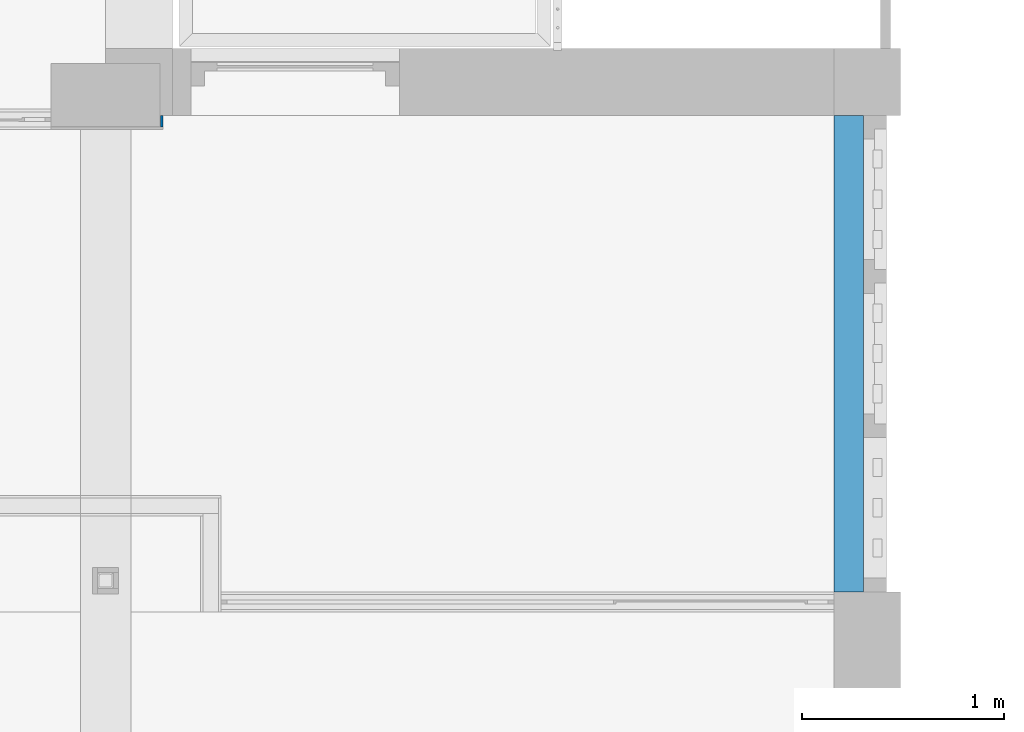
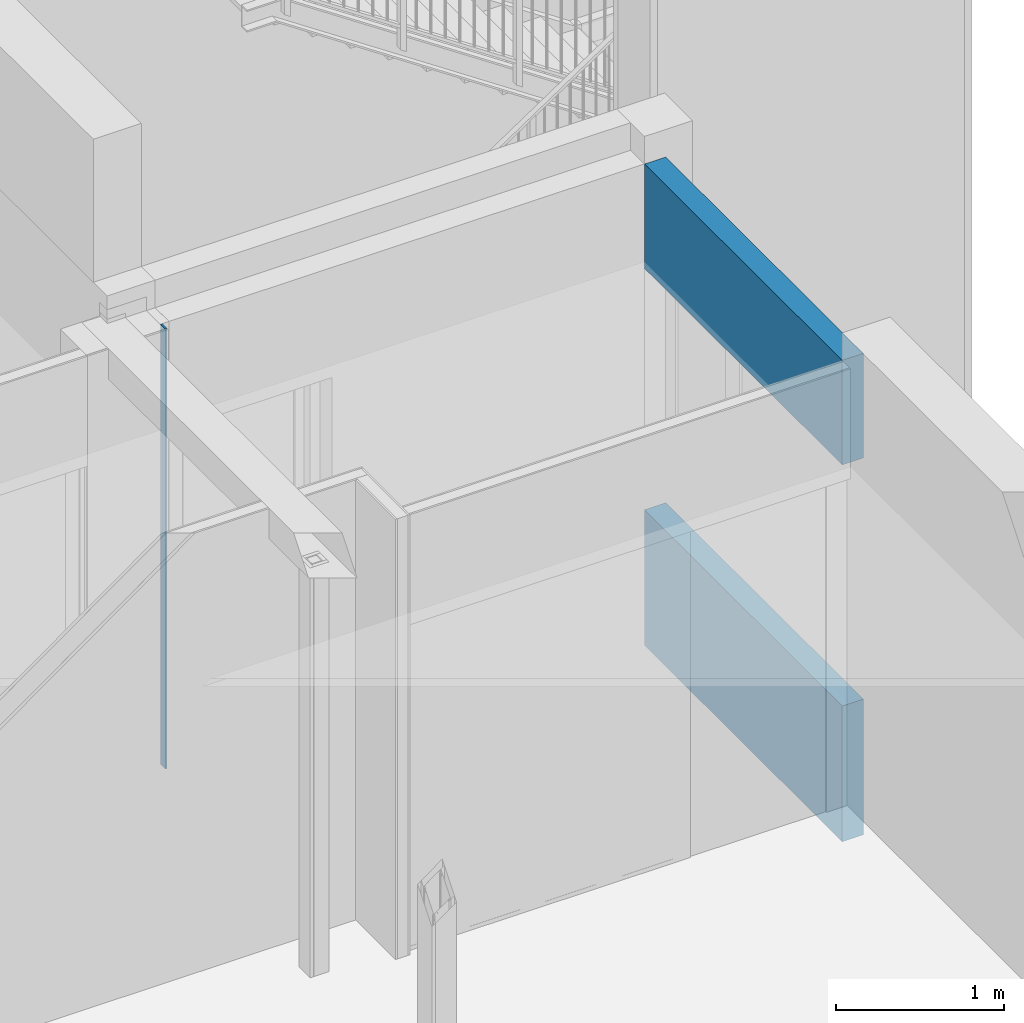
# One storey, part 67 of 117: 3 walls.
"""IFC2X3 building model written with IfcOpenShell, lengths in millimetres."""

from ifc_helpers import new_model, entity, si_unit, converted_unit, derived_unit, money_unit, direction, frame, origin_with_axes, place, context, subcontext, project, spatial, faceted_brep, material, type_object, element, save


model = new_model("IFC2X3")

# Units and contexts
model_context = context("Model", 3, precision=0.01, world=origin_with_axes(), true_north=direction((0.0, 1.0)))
body_context = subcontext(model_context, "Body", "Model", "MODEL_VIEW")
ifc_project = project(units=[si_unit("LENGTHUNIT", "METRE", prefix="MILLI"), si_unit("AREAUNIT", "SQUARE_METRE"), si_unit("VOLUMEUNIT", "CUBIC_METRE"), converted_unit("PLANEANGLEUNIT", "DEGREE", entity("IfcPlaneAngleMeasure", 0.0174532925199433), si_unit("PLANEANGLEUNIT", "RADIAN"), dimensions=[0, 0, 0, 0, 0, 0, 0]), money_unit("EUR"), converted_unit("TIMEUNIT", "Year", entity("IfcTimeMeasure", 31557600.0), si_unit("TIMEUNIT", "SECOND"), dimensions=[0, 0, 1, 0, 0, 0, 0]), si_unit("MASSUNIT", "GRAM", prefix="KILO"), si_unit("THERMODYNAMICTEMPERATUREUNIT", "DEGREE_CELSIUS"), si_unit("LUMINOUSINTENSITYUNIT", "LUMEN"), si_unit("ENERGYUNIT", "JOULE", prefix="MEGA"), derived_unit("THERMALCONDUCTANCEUNIT", [(si_unit("POWERUNIT", "WATT"), 1), (si_unit("LENGTHUNIT", "METRE"), -1), (si_unit("THERMODYNAMICTEMPERATUREUNIT", "KELVIN"), -1)]), derived_unit("SPECIFICHEATCAPACITYUNIT", [(si_unit("ENERGYUNIT", "JOULE"), 1), (si_unit("MASSUNIT", "GRAM", prefix="KILO"), -1), (si_unit("THERMODYNAMICTEMPERATUREUNIT", "KELVIN"), -1)]), derived_unit("MASSDENSITYUNIT", [(si_unit("MASSUNIT", "GRAM", prefix="KILO"), 1), (si_unit("VOLUMEUNIT", "CUBIC_METRE"), -1)])], contexts=[model_context])

# Site, building, storey
site_placement = place(None, origin_with_axes())
site = spatial("IfcSite", under=ifc_project, at=site_placement, Name="Site", CompositionType="ELEMENT")
building_placement = place(site_placement, origin_with_axes())
building = spatial("IfcBuilding", under=site, at=building_placement, Name="Naam gebouw", CompositionType="ELEMENT")
storey_placement = place(building_placement, frame((0.0, 0.0, 4150.0), z_axis=(0.0, 0.0, 1.0), x_axis=(1.0, 0.0, 0.0)))
storey = spatial("IfcBuildingStorey", under=building, at=storey_placement, Name="1e verdieping N", CompositionType="ELEMENT", Elevation=4150.0)

# Walls
ifc_material_1 = material(Name="ALG - CONSTRUCTIEF")
wall_type_1 = type_object("IfcWallType", Name="ALG - CONSTRUCTIEF 146", PredefinedType="NOTDEFINED")
wall_1_placement = place(storey_placement, frame((57599.99999999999, 20325.9124251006, -299.9999999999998), z_axis=(0.0, 0.0, 1.0), x_axis=(0.0, -1.0, 0.0)))
element("IfcWall", 1, at=wall_1_placement, inside=storey, type_object=wall_type_1, material=ifc_material_1, Name="_Wand-x", context=body_context, shape_type="Brep", body=[
    faceted_brep([(0.0, 146.0000000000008, 0.0), (2355.0, 146.0000000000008, 0.0), (2355.0, 0.0, 0.0), (0.0, 0.0, 0.0), (0.0, 146.0000000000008, 986.5000000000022), (2355.0, 146.0000000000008, 986.5000000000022), (2355.0, 0.0, 986.5000000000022), (0.0, 0.0, 986.5000000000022)], [[[0, 1, 2, 3]], [[4, 5, 1, 0]], [[2, 1, 5, 6]], [[3, 2, 6, 7]], [[4, 0, 3, 7]], [[7, 6, 5, 4]]]),
])
wall_2_placement = place(storey_placement, frame((57599.99999999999, 20325.9124251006, 2440.000000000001), z_axis=(0.0, 0.0, 1.0), x_axis=(0.0, -1.0, 0.0)))
element("IfcWall", 2, at=wall_2_placement, inside=storey, type_object=wall_type_1, material=ifc_material_1, Name="_Wand-x", context=body_context, shape_type="Brep", body=[
    faceted_brep([(0.0, 146.0000000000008, 0.0), (2355.0, 146.0000000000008, 0.0), (2355.0, 0.0, 0.0), (0.0, 0.0, 0.0), (0.0, 146.0000000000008, 759.9999999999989), (2355.0, 146.0000000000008, 759.9999999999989), (2355.0, 0.0, 759.9999999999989), (0.0, 0.0, 759.9999999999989)], [[[0, 1, 2, 3]], [[4, 5, 1, 0]], [[2, 1, 5, 6]], [[3, 2, 6, 7]], [[4, 0, 3, 7]], [[7, 6, 5, 4]]]),
])
ifc_material_2 = material(Name="Gipsplaat")
wall_type_2 = type_object("IfcWallType", Name="Gipsplaat 13", PredefinedType="NOTDEFINED")
wall_3_placement = place(storey_placement, frame((54284.5, 20255.91242510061, 0.0), z_axis=(0.0, 0.0, 1.0), x_axis=(0.0, 1.0, 0.0)))
element("IfcWall", 3, at=wall_3_placement, inside=storey, type_object=wall_type_2, material=ifc_material_2, Name="_Wand-x", context=body_context, shape_type="Brep", body=[
    faceted_brep([(69.99999999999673, 12.50000000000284, 0.0), (69.99999999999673, 12.50000000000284, 3200.0), (69.99999999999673, 0.0, 3200.0), (69.99999999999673, 0.0, 0.0), (12.49999999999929, 12.50000000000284, 0.0), (12.49999999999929, 12.50000000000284, 3200.0), (12.49999999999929, 0.0, 3200.0), (12.49999999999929, 0.0, 0.0)], [[[0, 1, 2, 3]], [[4, 5, 1, 0]], [[5, 6, 2, 1]], [[3, 2, 6, 7]], [[7, 4, 0, 3]], [[7, 6, 5, 4]]]),
])

save(model, "model.ifc")
